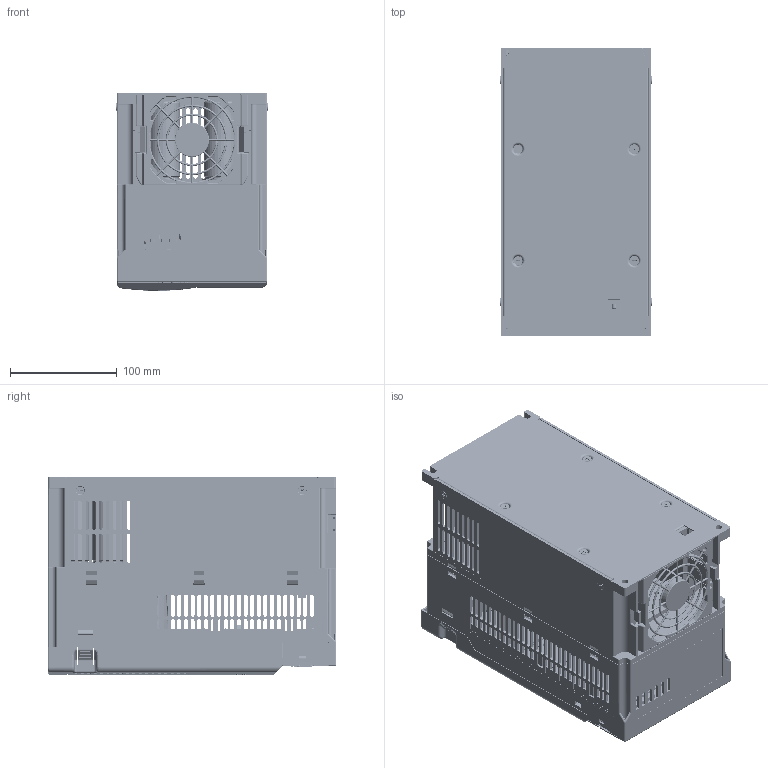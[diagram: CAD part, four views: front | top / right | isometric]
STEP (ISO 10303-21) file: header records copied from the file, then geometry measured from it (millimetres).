
FILE_DESCRIPTION((''),'2;1');
FILE_NAME('C:\Users\john\Desktop\SE3-C.stp','2017-10-18T08:29:21',('john'),(''),'Autodesk Inventor 2013','Autodesk Inventor 2013','');
FILE_SCHEMA(('AUTOMOTIVE_DESIGN { 1 0 10303 214 1 1 1 1 }'));
Length unit declared in the file: millimetre
Products named in the file (1): SE3-C组
Bounding box: 141.4 x 270.1 x 185.1 mm (x, y, z)
Surface area: 898679.5 mm2 (no closed solid volume)
Topology: 0 solids, 142 shells, 20918 faces, 59054 edges, 39391 vertices
Faces by surface type: plane 14075, cylinder 4138, bspline 2104, torus 308, cone 204, sphere 89
Full cylindrical faces by diameter (mm): 0.249 x5, 0.43 x3, 0.5 x26, 0.64 x66, 0.7 x13, 0.8 x5, 0.9 x8, 1 x4, 1.2 x2, 1.493 x2, 1.5 x4, 1.7 x2, 1.8 x2, 2 x36, 2.1 x4, 2.36 x2, 2.4 x1, 2.5 x40, 2.729 x1, 2.9 x1, 3 x8, 3.2 x3, 3.312 x10, 3.4 x9, 3.5 x11, 3.6 x1, 3.621 x2, 4 x18, 4.2 x3, 4.3 x3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
Entity records: 736573 total; most frequent: CARTESIAN_POINT 186789, ORIENTED_EDGE 116560, DIRECTION 97308, EDGE_CURVE 58305, VECTOR 41228, LINE 41228, VERTEX_POINT 39295, AXIS2_PLACEMENT_3D 28040
